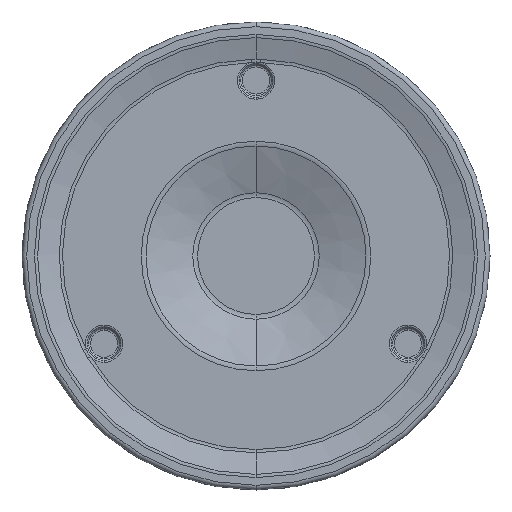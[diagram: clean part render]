
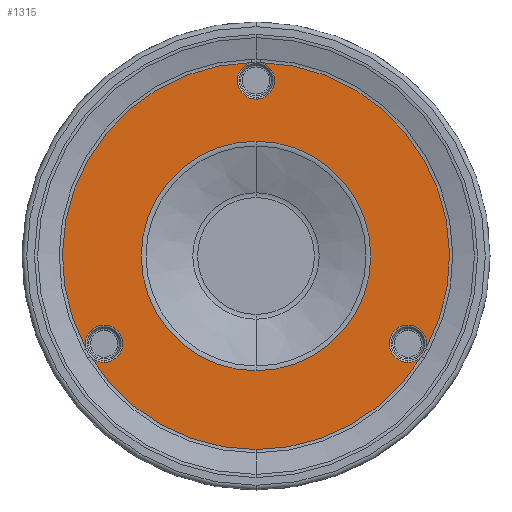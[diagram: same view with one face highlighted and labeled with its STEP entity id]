
A CAD part, front view. The second image highlights one B-rep face of the part: STEP entity #1315.
In plain terms, the highlighted planar face has unit normal (0, -1, 0).
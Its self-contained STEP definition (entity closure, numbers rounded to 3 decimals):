
#11 = ORIENTED_EDGE ( 'NONE', *, *, #2620, .T. ) ;
#20 = CARTESIAN_POINT ( 'NONE',  ( -70.638, 3., -43.08 ) ) ;
#35 = AXIS2_PLACEMENT_3D ( 'NONE', #206, #436, #2190 ) ;
#38 = CARTESIAN_POINT ( 'NONE',  ( -1.989, 3., 82.714 ) ) ;
#53 = ORIENTED_EDGE ( 'NONE', *, *, #1686, .T. ) ;
#71 = CIRCLE ( 'NONE', #765, 7.966 ) ;
#97 = VERTEX_POINT ( 'NONE', #2052 ) ;
#101 = CIRCLE ( 'NONE', #1802, 7.966 ) ;
#129 = VERTEX_POINT ( 'NONE', #2269 ) ;
#134 = CIRCLE ( 'NONE', #2797, 49.058 ) ;
#157 = AXIS2_PLACEMENT_3D ( 'NONE', #449, #653, #2654 ) ;
#206 = CARTESIAN_POINT ( 'NONE',  ( 0., 3., 0. ) ) ;
#207 = CIRCLE ( 'NONE', #35, 82.738 ) ;
#232 = DIRECTION ( 'NONE',  ( 0., 1., 0. ) ) ;
#238 = CARTESIAN_POINT ( 'NONE',  ( -64.952, 3., -37.5 ) ) ;
#263 = DIRECTION ( 'NONE',  ( 0., 0., -1. ) ) ;
#294 = AXIS2_PLACEMENT_3D ( 'NONE', #1791, #2483, #2223 ) ;
#315 = DIRECTION ( 'NONE',  ( 0., 1., 0. ) ) ;
#335 = DIRECTION ( 'NONE',  ( 0., 0., -1. ) ) ;
#382 = DIRECTION ( 'NONE',  ( 0., 1., 0. ) ) ;
#392 = VERTEX_POINT ( 'NONE', #1927 ) ;
#431 = DIRECTION ( 'NONE',  ( 0., 0., -1. ) ) ;
#436 = DIRECTION ( 'NONE',  ( 0., -1., 0. ) ) ;
#440 = VERTEX_POINT ( 'NONE', #443 ) ;
#443 = CARTESIAN_POINT ( 'NONE',  ( -64.952, 3., -45.466 ) ) ;
#444 = EDGE_LOOP ( 'NONE', ( #11, #1669, #1742, #1177, #53, #1641, #2170, #1571, #2087, #2438, #1714, #2289 ) ) ;
#449 = CARTESIAN_POINT ( 'NONE',  ( 64.952, 3., -37.5 ) ) ;
#531 = CARTESIAN_POINT ( 'NONE',  ( 64.952, 3., -37.5 ) ) ;
#606 = AXIS2_PLACEMENT_3D ( 'NONE', #1518, #382, #2394 ) ;
#620 = DIRECTION ( 'NONE',  ( 0., 0., -1. ) ) ;
#653 = DIRECTION ( 'NONE',  ( 0., 1., 0. ) ) ;
#694 = CARTESIAN_POINT ( 'NONE',  ( 0., 3., 49.058 ) ) ;
#734 = DIRECTION ( 'NONE',  ( 0., 0., -1. ) ) ;
#760 = CARTESIAN_POINT ( 'NONE',  ( 0., 3., 75. ) ) ;
#765 = AXIS2_PLACEMENT_3D ( 'NONE', #1372, #2266, #263 ) ;
#767 = CARTESIAN_POINT ( 'NONE',  ( 1.989, 3., 82.714 ) ) ;
#815 = EDGE_CURVE ( 'NONE', #97, #2615, #1803, .T. ) ;
#836 = CARTESIAN_POINT ( 'NONE',  ( 0., 3., 0. ) ) ;
#857 = DIRECTION ( 'NONE',  ( 0., 0., -1. ) ) ;
#942 = AXIS2_PLACEMENT_3D ( 'NONE', #836, #2601, #1070 ) ;
#1070 = DIRECTION ( 'NONE',  ( 0., 0., -1. ) ) ;
#1089 = VERTEX_POINT ( 'NONE', #2808 ) ;
#1122 = EDGE_CURVE ( 'NONE', #2615, #1324, #1245, .T. ) ;
#1168 = AXIS2_PLACEMENT_3D ( 'NONE', #2651, #2226, #431 ) ;
#1177 = ORIENTED_EDGE ( 'NONE', *, *, #1820, .T. ) ;
#1183 = EDGE_CURVE ( 'NONE', #392, #2472, #1214, .T. ) ;
#1214 = CIRCLE ( 'NONE', #2349, 49.058 ) ;
#1233 = EDGE_CURVE ( 'NONE', #1278, #1371, #207, .T. ) ;
#1245 = CIRCLE ( 'NONE', #157, 7.966 ) ;
#1278 = VERTEX_POINT ( 'NONE', #20 ) ;
#1315 = ADVANCED_FACE ( 'NONE', ( #2458, #1323 ), #2457, .T. ) ;
#1323 = FACE_OUTER_BOUND ( 'NONE', #444, .T. ) ;
#1324 = VERTEX_POINT ( 'NONE', #2262 ) ;
#1348 = EDGE_LOOP ( 'NONE', ( #1673, #1789 ) ) ;
#1371 = VERTEX_POINT ( 'NONE', #1386 ) ;
#1372 = CARTESIAN_POINT ( 'NONE',  ( 0., 3., 75. ) ) ;
#1386 = CARTESIAN_POINT ( 'NONE',  ( 0., 3., -82.738 ) ) ;
#1395 = CARTESIAN_POINT ( 'NONE',  ( 64.952, 3., -37.5 ) ) ;
#1460 = DIRECTION ( 'NONE',  ( 0., 1., 0. ) ) ;
#1518 = CARTESIAN_POINT ( 'NONE',  ( -64.952, 3., -37.5 ) ) ;
#1524 = CARTESIAN_POINT ( 'NONE',  ( 0., 3., 0. ) ) ;
#1551 = CIRCLE ( 'NONE', #942, 82.738 ) ;
#1558 = CARTESIAN_POINT ( 'NONE',  ( -72.627, 3., -39.634 ) ) ;
#1571 = ORIENTED_EDGE ( 'NONE', *, *, #1809, .T. ) ;
#1641 = ORIENTED_EDGE ( 'NONE', *, *, #2692, .T. ) ;
#1669 = ORIENTED_EDGE ( 'NONE', *, *, #2473, .T. ) ;
#1673 = ORIENTED_EDGE ( 'NONE', *, *, #1183, .T. ) ;
#1683 = CIRCLE ( 'NONE', #606, 7.966 ) ;
#1686 = EDGE_CURVE ( 'NONE', #129, #440, #1683, .T. ) ;
#1693 = AXIS2_PLACEMENT_3D ( 'NONE', #531, #2080, #734 ) ;
#1696 = AXIS2_PLACEMENT_3D ( 'NONE', #2567, #2782, #2131 ) ;
#1714 = ORIENTED_EDGE ( 'NONE', *, *, #2140, .T. ) ;
#1742 = ORIENTED_EDGE ( 'NONE', *, *, #2291, .T. ) ;
#1775 = DIRECTION ( 'NONE',  ( 0., 1., 0. ) ) ;
#1789 = ORIENTED_EDGE ( 'NONE', *, *, #2230, .T. ) ;
#1791 = CARTESIAN_POINT ( 'NONE',  ( 0., 3., 0. ) ) ;
#1802 = AXIS2_PLACEMENT_3D ( 'NONE', #760, #315, #2093 ) ;
#1803 = CIRCLE ( 'NONE', #1693, 7.966 ) ;
#1809 = EDGE_CURVE ( 'NONE', #1371, #97, #2210, .T. ) ;
#1820 = EDGE_CURVE ( 'NONE', #2445, #129, #2690, .T. ) ;
#1927 = CARTESIAN_POINT ( 'NONE',  ( 0., 3., -49.058 ) ) ;
#1978 = DIRECTION ( 'NONE',  ( 0., -1., 0. ) ) ;
#2052 = CARTESIAN_POINT ( 'NONE',  ( 70.638, 3., -43.08 ) ) ;
#2080 = DIRECTION ( 'NONE',  ( 0., 1., 0. ) ) ;
#2087 = ORIENTED_EDGE ( 'NONE', *, *, #815, .T. ) ;
#2093 = DIRECTION ( 'NONE',  ( 0., 0., -1. ) ) ;
#2110 = CARTESIAN_POINT ( 'NONE',  ( 0., 3., 67.034 ) ) ;
#2131 = DIRECTION ( 'NONE',  ( 0., 0., -1. ) ) ;
#2140 = EDGE_CURVE ( 'NONE', #1324, #1089, #2177, .T. ) ;
#2170 = ORIENTED_EDGE ( 'NONE', *, *, #1233, .T. ) ;
#2177 = CIRCLE ( 'NONE', #2564, 7.966 ) ;
#2190 = DIRECTION ( 'NONE',  ( 0., 0., -1. ) ) ;
#2208 = DIRECTION ( 'NONE',  ( 0., 0., -1. ) ) ;
#2210 = CIRCLE ( 'NONE', #2332, 82.738 ) ;
#2223 = DIRECTION ( 'NONE',  ( 0., 0., -1. ) ) ;
#2226 = DIRECTION ( 'NONE',  ( 0., -1., 0. ) ) ;
#2230 = EDGE_CURVE ( 'NONE', #2472, #392, #134, .T. ) ;
#2262 = CARTESIAN_POINT ( 'NONE',  ( 64.952, 3., -29.534 ) ) ;
#2266 = DIRECTION ( 'NONE',  ( 0., 1., 0. ) ) ;
#2269 = CARTESIAN_POINT ( 'NONE',  ( -64.952, 3., -29.534 ) ) ;
#2289 = ORIENTED_EDGE ( 'NONE', *, *, #2439, .T. ) ;
#2291 = EDGE_CURVE ( 'NONE', #2537, #2445, #1551, .T. ) ;
#2332 = AXIS2_PLACEMENT_3D ( 'NONE', #1524, #1978, #2666 ) ;
#2349 = AXIS2_PLACEMENT_3D ( 'NONE', #2631, #232, #620 ) ;
#2394 = DIRECTION ( 'NONE',  ( 0., 0., -1. ) ) ;
#2438 = ORIENTED_EDGE ( 'NONE', *, *, #1122, .T. ) ;
#2439 = EDGE_CURVE ( 'NONE', #1089, #2621, #2658, .T. ) ;
#2445 = VERTEX_POINT ( 'NONE', #1558 ) ;
#2457 = PLANE ( 'NONE',  #294 ) ;
#2458 = FACE_BOUND ( 'NONE', #1348, .T. ) ;
#2472 = VERTEX_POINT ( 'NONE', #694 ) ;
#2473 = EDGE_CURVE ( 'NONE', #2646, #2537, #71, .T. ) ;
#2483 = DIRECTION ( 'NONE',  ( 0., -1., 0. ) ) ;
#2537 = VERTEX_POINT ( 'NONE', #38 ) ;
#2542 = DIRECTION ( 'NONE',  ( 0., 1., 0. ) ) ;
#2562 = CARTESIAN_POINT ( 'NONE',  ( 0., 3., 0. ) ) ;
#2564 = AXIS2_PLACEMENT_3D ( 'NONE', #1395, #2542, #335 ) ;
#2567 = CARTESIAN_POINT ( 'NONE',  ( -64.952, 3., -37.5 ) ) ;
#2601 = DIRECTION ( 'NONE',  ( 0., -1., 0. ) ) ;
#2615 = VERTEX_POINT ( 'NONE', #2767 ) ;
#2620 = EDGE_CURVE ( 'NONE', #2621, #2646, #101, .T. ) ;
#2621 = VERTEX_POINT ( 'NONE', #767 ) ;
#2631 = CARTESIAN_POINT ( 'NONE',  ( 0., 3., 0. ) ) ;
#2646 = VERTEX_POINT ( 'NONE', #2110 ) ;
#2651 = CARTESIAN_POINT ( 'NONE',  ( 0., 3., 0. ) ) ;
#2654 = DIRECTION ( 'NONE',  ( 0., 0., -1. ) ) ;
#2658 = CIRCLE ( 'NONE', #1168, 82.738 ) ;
#2666 = DIRECTION ( 'NONE',  ( 0., 0., -1. ) ) ;
#2690 = CIRCLE ( 'NONE', #2850, 7.966 ) ;
#2692 = EDGE_CURVE ( 'NONE', #440, #1278, #2730, .T. ) ;
#2730 = CIRCLE ( 'NONE', #1696, 7.966 ) ;
#2767 = CARTESIAN_POINT ( 'NONE',  ( 64.952, 3., -45.466 ) ) ;
#2782 = DIRECTION ( 'NONE',  ( 0., 1., 0. ) ) ;
#2797 = AXIS2_PLACEMENT_3D ( 'NONE', #2562, #1460, #857 ) ;
#2808 = CARTESIAN_POINT ( 'NONE',  ( 72.627, 3., -39.634 ) ) ;
#2850 = AXIS2_PLACEMENT_3D ( 'NONE', #238, #1775, #2208 ) ;
